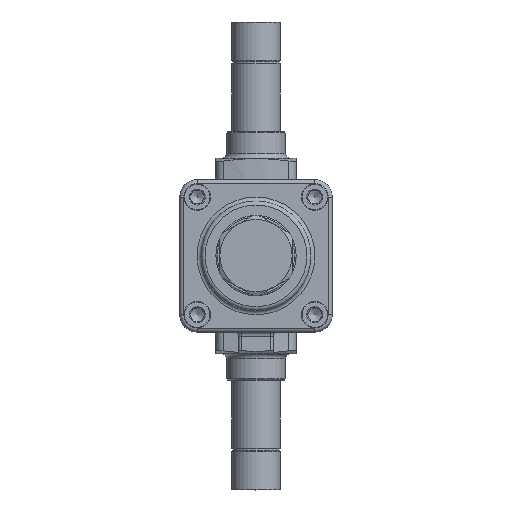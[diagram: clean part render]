
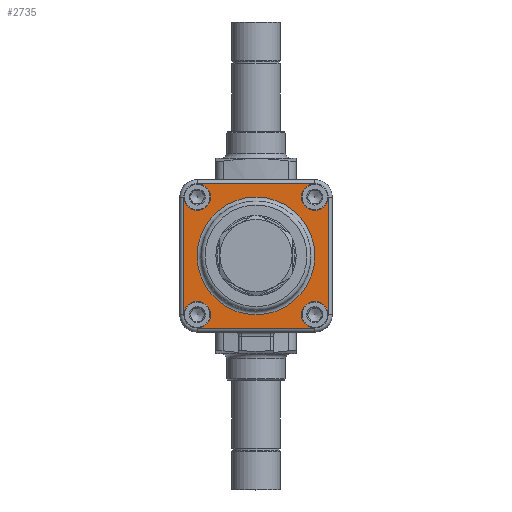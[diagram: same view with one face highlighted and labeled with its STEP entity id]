
A CAD part, top view. The second image highlights one B-rep face of the part: STEP entity #2735.
In plain terms, the highlighted planar face has unit normal (0, 0, 1).
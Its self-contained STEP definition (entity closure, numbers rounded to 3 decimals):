
#1341=LINE('',#22947,#1893);
#1342=LINE('',#22951,#1894);
#1343=LINE('',#22955,#1895);
#1344=LINE('',#22959,#1896);
#1893=VECTOR('',#14552,1.);
#1894=VECTOR('',#14555,1.);
#1895=VECTOR('',#14558,1.);
#1896=VECTOR('',#14561,1.);
#2735=ADVANCED_FACE('',(#3642,#3979),#3096,.T.);
#3096=PLANE('',#12057);
#3642=FACE_OUTER_BOUND('',#4788,.T.);
#3979=FACE_BOUND('',#4789,.T.);
#4788=EDGE_LOOP('',(#7521,#7522,#7523,#7524,#7525,#7526,#7527,#7528));
#4789=EDGE_LOOP('',(#7529));
#7521=ORIENTED_EDGE('',*,*,#10424,.F.);
#7522=ORIENTED_EDGE('',*,*,#10425,.T.);
#7523=ORIENTED_EDGE('',*,*,#10426,.F.);
#7524=ORIENTED_EDGE('',*,*,#10427,.T.);
#7525=ORIENTED_EDGE('',*,*,#10428,.F.);
#7526=ORIENTED_EDGE('',*,*,#10429,.T.);
#7527=ORIENTED_EDGE('',*,*,#10430,.F.);
#7528=ORIENTED_EDGE('',*,*,#10431,.T.);
#7529=ORIENTED_EDGE('',*,*,#10432,.T.);
#8977=VERTEX_POINT('',#22945);
#8978=VERTEX_POINT('',#22946);
#8979=VERTEX_POINT('',#22948);
#8980=VERTEX_POINT('',#22950);
#8981=VERTEX_POINT('',#22952);
#8982=VERTEX_POINT('',#22954);
#8983=VERTEX_POINT('',#22956);
#8984=VERTEX_POINT('',#22958);
#8985=VERTEX_POINT('',#22961);
#10424=EDGE_CURVE('',#8977,#8978,#11075,.T.);
#10425=EDGE_CURVE('',#8977,#8979,#1341,.T.);
#10426=EDGE_CURVE('',#8980,#8979,#11076,.T.);
#10427=EDGE_CURVE('',#8980,#8981,#1342,.T.);
#10428=EDGE_CURVE('',#8982,#8981,#11077,.T.);
#10429=EDGE_CURVE('',#8982,#8983,#1343,.T.);
#10430=EDGE_CURVE('',#8984,#8983,#11078,.T.);
#10431=EDGE_CURVE('',#8984,#8978,#1344,.T.);
#10432=EDGE_CURVE('',#8985,#8985,#11079,.T.);
#11075=CIRCLE('',#12052,5.);
#11076=CIRCLE('',#12053,5.);
#11077=CIRCLE('',#12054,5.);
#11078=CIRCLE('',#12055,5.);
#11079=CIRCLE('',#12056,22.);
#12052=AXIS2_PLACEMENT_3D('',#22944,#14550,#14551);
#12053=AXIS2_PLACEMENT_3D('',#22949,#14553,#14554);
#12054=AXIS2_PLACEMENT_3D('',#22953,#14556,#14557);
#12055=AXIS2_PLACEMENT_3D('',#22957,#14559,#14560);
#12056=AXIS2_PLACEMENT_3D('',#22960,#14562,#14563);
#12057=AXIS2_PLACEMENT_3D('',#22962,#14564,#14565);
#14550=DIRECTION('',(0.,0.,1.));
#14551=DIRECTION('',(1.,0.,0.));
#14552=DIRECTION('',(0.,1.,0.));
#14553=DIRECTION('',(0.,0.,1.));
#14554=DIRECTION('',(1.,0.,0.));
#14555=DIRECTION('',(-1.,0.,0.));
#14556=DIRECTION('',(0.,0.,1.));
#14557=DIRECTION('',(1.,0.,0.));
#14558=DIRECTION('',(0.,-1.,0.));
#14559=DIRECTION('',(0.,0.,1.));
#14560=DIRECTION('',(1.,0.,0.));
#14561=DIRECTION('',(1.,0.,0.));
#14562=DIRECTION('',(0.,0.,-1.));
#14563=DIRECTION('',(1.,0.,0.));
#14564=DIRECTION('',(0.,0.,1.));
#14565=DIRECTION('',(1.,0.,0.));
#22944=CARTESIAN_POINT('',(22.,-22.,26.5));
#22945=CARTESIAN_POINT('',(27.,-22.,26.5));
#22946=CARTESIAN_POINT('',(22.,-27.,26.5));
#22947=CARTESIAN_POINT('',(27.,0.,26.5));
#22948=CARTESIAN_POINT('',(27.,22.,26.5));
#22949=CARTESIAN_POINT('',(22.,22.,26.5));
#22950=CARTESIAN_POINT('',(22.,27.,26.5));
#22951=CARTESIAN_POINT('',(0.,27.,26.5));
#22952=CARTESIAN_POINT('',(-22.,27.,26.5));
#22953=CARTESIAN_POINT('',(-22.,22.,26.5));
#22954=CARTESIAN_POINT('',(-27.,22.,26.5));
#22955=CARTESIAN_POINT('',(-27.,0.,26.5));
#22956=CARTESIAN_POINT('',(-27.,-22.,26.5));
#22957=CARTESIAN_POINT('',(-22.,-22.,26.5));
#22958=CARTESIAN_POINT('',(-22.,-27.,26.5));
#22959=CARTESIAN_POINT('',(0.,-27.,26.5));
#22960=CARTESIAN_POINT('',(0.,0.,
26.5));
#22961=CARTESIAN_POINT('',(22.,0.,26.5));
#22962=CARTESIAN_POINT('',(0.,0.,26.5));
